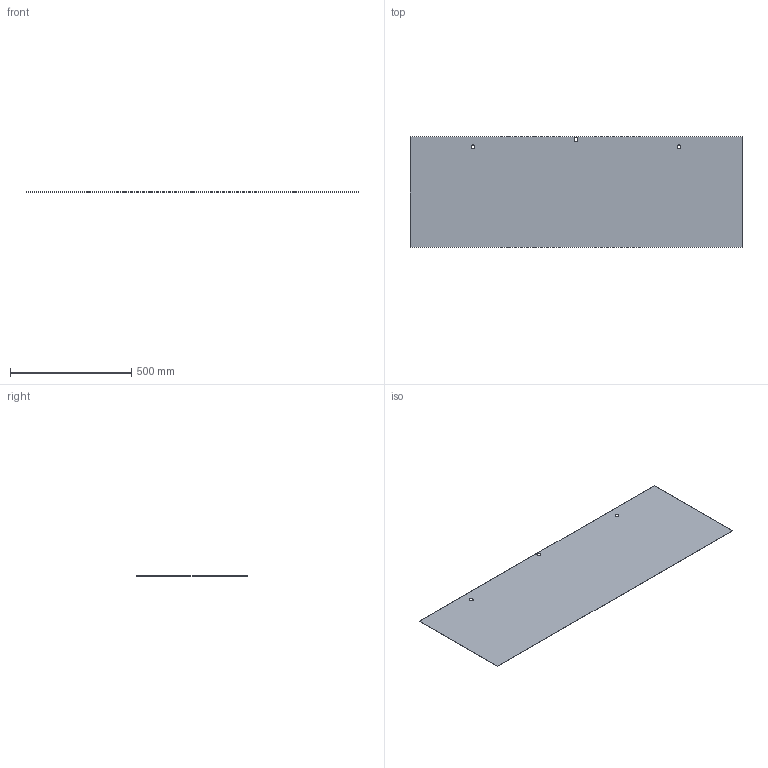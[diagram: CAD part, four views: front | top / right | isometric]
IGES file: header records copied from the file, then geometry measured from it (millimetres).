
Start section: SolidWorks IGES file using NURBS representation for surfaces
Global section: file name: G:\VICCARBE\PRODUCTOS\12-LEG-IN\04-MODELADOS (PLANOS)\SOLIDWORKS\LEG_IN 2011\ENSAMBLAJES\Mesas 3D\IGES\ACCESORIES\VICCARBE_LEFB180.IGS; native system: SolidWorks 2009; preprocessor: SolidWorks 2009; author: RUBEN; date: 111024.104746; units: millimetre
Bounding box: 1370 x 456 x 1 mm (x, y, z)
Surface area: 1252036.4 mm2 (no closed solid volume)
Topology: 0 solids, 0 shells, 12 faces, 240 edges, 240 vertices
Faces by surface type: bspline 12
